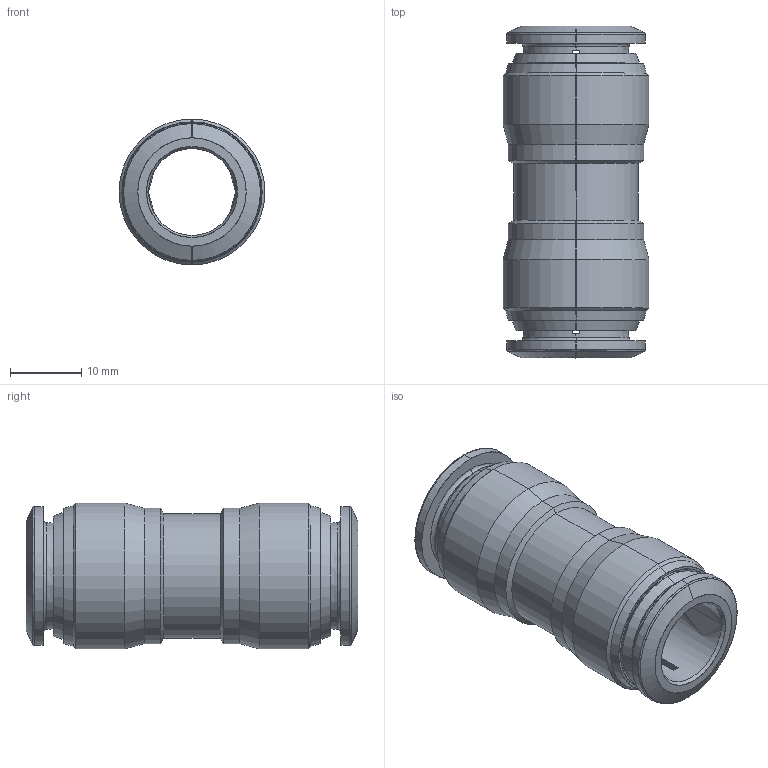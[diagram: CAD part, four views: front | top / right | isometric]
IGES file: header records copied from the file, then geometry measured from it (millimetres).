
Start section: SolidWorks IGES file using analytic representation for surfaces
Global section: file name: C:\Users\cad06\Desktop\Nuova cartella\40040V0007A.IGS; native system: SolidWorks 2016; preprocessor: SolidWorks 2016; author: cad06; date: 160516.151243; units: millimetre
Bounding box: 20.5 x 46.6 x 20.5 mm (x, y, z)
Surface area: 5344.7 mm2 (no closed solid volume)
Topology: 0 solids, 0 shells, 88 faces, 1008 edges, 1008 vertices
Faces by surface type: revolution 62, bspline 26
